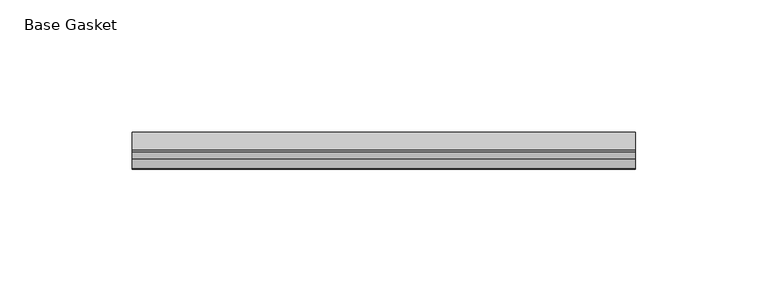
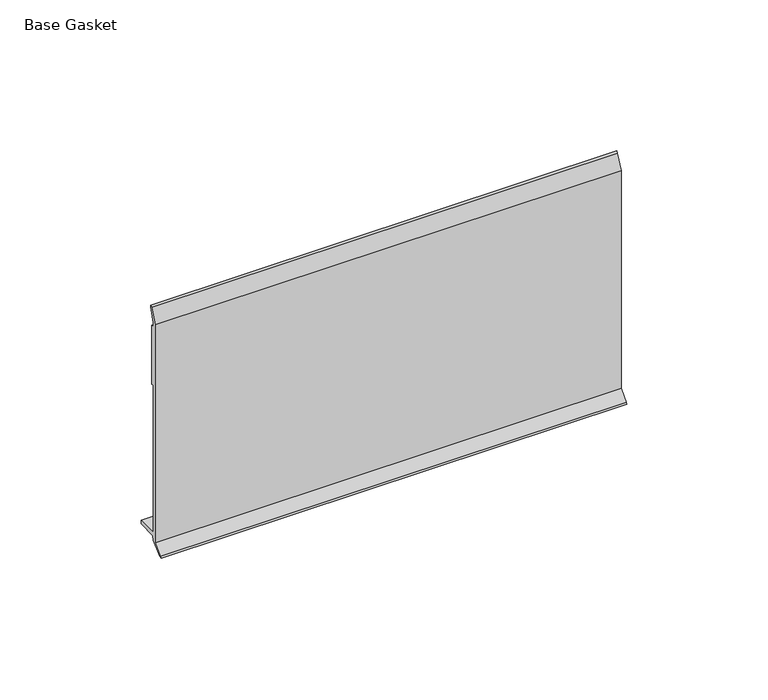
"""IFC4 building model written with IfcOpenShell, lengths in millimetres: furniture geometry, Gasket-Teknion-FHGB-AI_Healthcare-R2021 : Base Gasket."""

import ifcopenshell
import ifcopenshell.guid

model = None  # the IFC model being written
_history = None  # IfcOwnerHistory: only IFC2X3 demands one
_inside = {}  # id of a spatial element -> (the spatial element, [elements in it])
_under = {}  # id of a project, library or spatial element -> (it, [spatial elements below it])
_declared = {}  # id of a project -> (the project, [libraries it declares])
_typed = {}  # id of a type object -> (the type object, [elements of that type])
_made_of = {}  # id of a material, layer set ... -> (it, [elements and type objects made of it])


def new_model(schema):
    """Start an empty IFC model of exactly this schema.

    Asked for "IFC4X3", IfcOpenShell would pick the latest addendum, in which some entities
    have other attributes; the version numbers below select the first issue.
    IFC2X3 requires an IfcOwnerHistory on every rooted entity: one is made here for all.
    """
    global model, _history
    if schema == "IFC4X3":
        model = ifcopenshell.file(schema_version=(4, 3, 0, 0))
    else:
        model = ifcopenshell.file(schema=schema)
    _inside.clear()
    _under.clear()
    _declared.clear()
    _typed.clear()
    _made_of.clear()
    _history = None
    if model.schema == "IFC2X3":
        org = make("IfcOrganization", Name="unknown")
        user = make(
            "IfcPersonAndOrganization",
            ThePerson=make("IfcPerson", FamilyName="unknown"),
            TheOrganization=org,
        )
        app = make(
            "IfcApplication",
            ApplicationDeveloper=org,
            Version="unknown",
            ApplicationFullName="unknown",
            ApplicationIdentifier="unknown",
        )
        _history = make(
            "IfcOwnerHistory",
            OwningUser=user,
            OwningApplication=app,
            ChangeAction="ADDED",
            CreationDate=0,
        )
    return model


def make(cls, **values):
    """One entity of the class cls with the attributes given. An attribute that is None is left unset."""
    return model.create_entity(
        cls, **{name: value for name, value in values.items() if value is not None}
    )


def rooted(cls, **values):
    """An entity with a GlobalId (a new one), such as an element, a storey or a relation."""
    return make(cls, GlobalId=ifcopenshell.guid.new(), OwnerHistory=_history, **values)


def si_unit(unit_type, name, prefix=None):
    """IfcSIUnit, for example si_unit("LENGTHUNIT", "METRE", prefix="MILLI")."""
    return make("IfcSIUnit", UnitType=unit_type, Prefix=prefix, Name=name)


def assignment(units):
    """IfcUnitAssignment: the units of a project."""
    return None if units is None else make("IfcUnitAssignment", Units=units)


def point(xyz):
    """IfcCartesianPoint."""
    return None if xyz is None else make("IfcCartesianPoint", Coordinates=xyz)


def direction(xyz):
    """IfcDirection."""
    return None if xyz is None else make("IfcDirection", DirectionRatios=xyz)


def frame(location, z_axis=None, x_axis=None):
    """IfcAxis2Placement3D, a coordinate frame: its origin and axes. An axis left out is left unset."""
    return make(
        "IfcAxis2Placement3D",
        Location=point(location),
        Axis=direction(z_axis),
        RefDirection=direction(x_axis),
    )


def origin():
    """The frame at (0, 0, 0) with its axes left unset."""
    return frame((0.0, 0.0, 0.0))


def place(relative_to, where):
    """IfcLocalPlacement: puts the frame where relative to a parent placement (None: the world)."""
    return make(
        "IfcLocalPlacement", PlacementRelTo=relative_to, RelativePlacement=where
    )


def context(
    kind, dimensions, precision=None, world=None, true_north=None, identifier=None
):
    """IfcGeometricRepresentationContext, for example the 3D "Model" context."""
    return make(
        "IfcGeometricRepresentationContext",
        ContextIdentifier=identifier,
        ContextType=kind,
        CoordinateSpaceDimension=dimensions,
        Precision=precision,
        WorldCoordinateSystem=world,
        TrueNorth=true_north,
    )


def project(units=None, contexts=None):
    """IfcProject with its units and contexts."""
    return rooted(
        "IfcProject",
        Name="project",
        RepresentationContexts=contexts,
        UnitsInContext=assignment(units),
    )


def spatial(cls, under=None, at=None, **own):
    """A site, building, storey or space (cls), placed at a placement, below another one or the project."""
    s = rooted(cls, ObjectPlacement=at, **own)
    if under is not None:
        _under.setdefault(under.id(), (under, []))[1].append(s)
    return s


def polyline(points):
    """IfcPolyline through the points."""
    return make("IfcPolyline", Points=[point(p) for p in points])


def outline(outer, holes=None, kind="AREA"):
    """IfcArbitraryClosedProfileDef: a profile drawn as a closed curve; with holes, ...WithVoids."""
    if holes is None:
        return make("IfcArbitraryClosedProfileDef", ProfileType=kind, OuterCurve=outer)
    return make(
        "IfcArbitraryProfileDefWithVoids",
        ProfileType=kind,
        OuterCurve=outer,
        InnerCurves=holes,
    )


def extrude(swept, where, along, depth):
    """IfcExtrudedAreaSolid: the profile swept, set in the frame where, extruded along a direction by depth."""
    return make(
        "IfcExtrudedAreaSolid",
        SweptArea=swept,
        Position=where,
        ExtrudedDirection=direction(along),
        Depth=depth,
    )


def shape(context_of_items, identifier, shape_type, items):
    """IfcShapeRepresentation: the items that make up one representation, for example the "Body"."""
    return make(
        "IfcShapeRepresentation",
        ContextOfItems=context_of_items,
        RepresentationIdentifier=identifier,
        RepresentationType=shape_type,
        Items=items,
    )


def source(mapping_origin, context_of_items, identifier, shape_type, items):
    """IfcRepresentationMap: a shape defined once, which mapped items show again and again."""
    return make(
        "IfcRepresentationMap",
        MappingOrigin=mapping_origin,
        MappedRepresentation=shape(context_of_items, identifier, shape_type, items),
    )


def transform(
    local_origin,
    x_axis=None,
    y_axis=None,
    z_axis=None,
    scale=None,
    scale2=None,
    scale3=None,
    uniform=True,
):
    """IfcCartesianTransformationOperator3D, or its non-uniform kind. x_axis, y_axis, z_axis: its Axis1, 2, 3."""
    if uniform:
        return make(
            "IfcCartesianTransformationOperator3D",
            Axis1=direction(x_axis),
            Axis2=direction(y_axis),
            LocalOrigin=point(local_origin),
            Scale=scale,
            Axis3=direction(z_axis),
        )
    return make(
        "IfcCartesianTransformationOperator3DnonUniform",
        Axis1=direction(x_axis),
        Axis2=direction(y_axis),
        LocalOrigin=point(local_origin),
        Scale=scale,
        Axis3=direction(z_axis),
        Scale2=scale2,
        Scale3=scale3,
    )


def mapped(mapping_source, mapping_target):
    """IfcMappedItem: shows the shape of a source again, moved by a transform."""
    return make(
        "IfcMappedItem", MappingSource=mapping_source, MappingTarget=mapping_target
    )


def made_of(thing, what):
    """Note that an element or type object is made of a material, layer set ...; save() writes the relation."""
    if what is not None:
        _made_of.setdefault(what.id(), (what, []))[1].append(thing)
    return thing


def element(
    cls,
    number,
    at=None,
    inside=None,
    cuts=None,
    type_object=None,
    material=None,
    context=None,
    identifier="Body",
    shape_type=None,
    held_by="IfcProductDefinitionShape",
    body=None,
    shapes=None,
    **own,
):
    """One element of the class cls, such as IfcWall. Its Tag is "e" and its number.

    at: its placement. inside: the storey or other place that contains it. cuts: it is an
    opening in that element (IfcRelVoidsElement). A single representation is given by context,
    identifier, shape_type and body (its items); several are given by shapes. held_by: the class
    of the entity that holds the representations. save() writes the other relations.
    """
    e = rooted(cls, Tag="e%d" % number, ObjectPlacement=at, **own)
    if body is not None:
        shapes = [shape(context, identifier, shape_type, body)]
    if shapes is not None:
        e.Representation = make(held_by, Representations=shapes)
    if inside is not None:
        _inside.setdefault(inside.id(), (inside, []))[1].append(e)
    if cuts is not None:
        rooted(
            "IfcRelVoidsElement", RelatingBuildingElement=cuts, RelatedOpeningElement=e
        )
    if type_object is not None:
        _typed.setdefault(type_object.id(), (type_object, []))[1].append(e)
    return made_of(e, material)


def aggregate(whole, parts):
    """IfcRelAggregates: a whole, such as a stair, and the parts it consists of."""
    return rooted("IfcRelAggregates", RelatingObject=whole, RelatedObjects=parts)


def save(model, path):
    """Write the relations noted so far, then the file.

    IfcRelAggregates (storeys below a building ...), IfcRelContainedInSpatialStructure (elements
    in a storey), IfcRelDefinesByType, IfcRelAssociatesMaterial and IfcRelDeclares: one each for
    every whole, place, type object, material and project.
    """
    for whole, parts in _under.values():
        aggregate(whole, parts)
    for where, things in _inside.values():
        rooted(
            "IfcRelContainedInSpatialStructure",
            RelatedElements=things,
            RelatingStructure=where,
        )
    for kind, things in _typed.values():
        rooted("IfcRelDefinesByType", RelatedObjects=things, RelatingType=kind)
    for what, things in _made_of.values():
        rooted("IfcRelAssociatesMaterial", RelatedObjects=things, RelatingMaterial=what)
    for by, libraries in _declared.values():
        rooted("IfcRelDeclares", RelatingContext=by, RelatedDefinitions=libraries)
    model.write(path)


def base_gasket_d66b7654(model_context):
    return source(origin(), model_context, "Body", "SweptSolid", [
        extrude(outline(polyline([(-3.7283812, 98.4568417), (-1.1891543, 104.587663), (-0.6755308, 105.2002997), (-0.6755308, 104.4162708), (-2.2043812, 98.4568417), (-2.2043812, 96.8693477), (-1.4106313, 96.8693477), (-1.4106313, 71.4693447), (-2.2043812, 71.4693447), (-2.2043812, 7.9398773), (6.2405171, 7.9398773), (6.2405171, 6.3818476), (-2.1334222, 6.3818476), (-2.2043812, 4.3498477), (-6.8281054, 0.3520979), (-7.8482342, 0.0), (-7.4222115, 0.6560174), (-3.7283812, 4.3498477), (-3.7283812, 98.4568417)])), frame((-1527.8982117, 0.0, 0.0), z_axis=(1.0, 0.0, 0.0), x_axis=(0.0, 1.0, 0.0)), (0.0, 0.0, 1.0), 190.5),
    ])


if __name__ == "__main__":
    model = new_model("IFC4")
    model_context = context("Model", 3, world=origin())
    ifc_project = project(units=[si_unit("LENGTHUNIT", "METRE", prefix="MILLI")], contexts=[model_context])
    site = spatial("IfcSite", under=ifc_project)
    building = spatial("IfcBuilding", under=site)
    placement = place(None, origin())
    base_gasket_shape = base_gasket_d66b7654(model_context)
    element("IfcFurniture", 1, ObjectType="Gasket-Teknion-FHGB-AI_Healthcare-R2021 : Base Gasket", at=placement, inside=building, context=model_context, shape_type="MappedRepresentation", body=[
        mapped(base_gasket_shape, transform((0.0, 0.0, 0.0), x_axis=(1.0, 0.0, 0.0), y_axis=(0.0, 1.0, 0.0), z_axis=(0.0, 0.0, 1.0))),
    ])
    save(model, "model.ifc")
